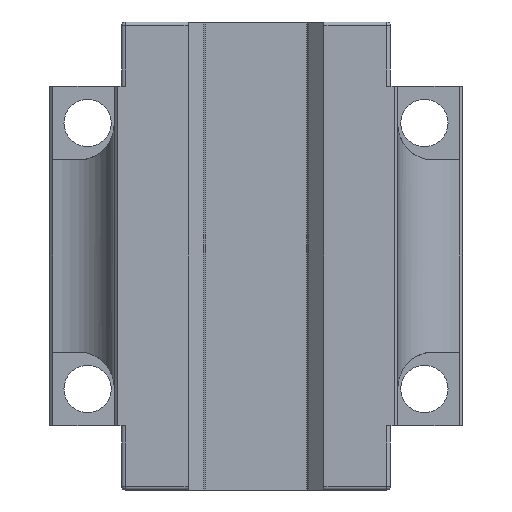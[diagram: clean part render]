
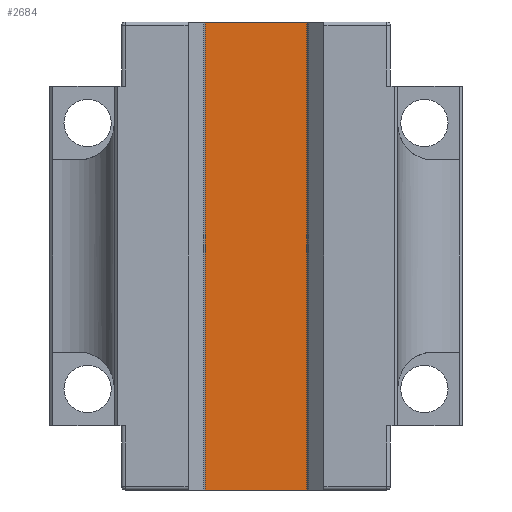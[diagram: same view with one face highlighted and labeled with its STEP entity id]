
A CAD part, front view. The second image highlights one B-rep face of the part: STEP entity #2684.
In plain terms, the highlighted planar face has unit normal (0, -1, 0).
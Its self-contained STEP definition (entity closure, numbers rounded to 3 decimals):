
#25 = DIRECTION ( 'NONE',  ( 0., 0., 1. ) ) ;
#175 = EDGE_LOOP ( 'NONE', ( #678, #1746, #2467, #1109 ) ) ;
#246 = DIRECTION ( 'NONE',  ( -1., 0., 0. ) ) ;
#339 = VERTEX_POINT ( 'NONE', #2007 ) ;
#455 = CARTESIAN_POINT ( 'NONE',  ( -10.25, 19.2, -39.6 ) ) ;
#495 = CARTESIAN_POINT ( 'NONE',  ( -11.5, 19.2, -39.6 ) ) ;
#660 = AXIS2_PLACEMENT_3D ( 'NONE', #2571, #2582, #25 ) ;
#678 = ORIENTED_EDGE ( 'NONE', *, *, #1985, .F. ) ;
#754 = EDGE_CURVE ( 'NONE', #339, #1902, #2297, .T. ) ;
#837 = CARTESIAN_POINT ( 'NONE',  ( 10.25, 19.2, 39.6 ) ) ;
#1055 = EDGE_CURVE ( 'NONE', #2203, #1924, #2991, .T. ) ;
#1109 = ORIENTED_EDGE ( 'NONE', *, *, #1055, .T. ) ;
#1224 = VECTOR ( 'NONE', #2081, 1000. ) ;
#1368 = EDGE_CURVE ( 'NONE', #1902, #2203, #2119, .T. ) ;
#1440 = VECTOR ( 'NONE', #246, 1000. ) ;
#1621 = CARTESIAN_POINT ( 'NONE',  ( 10.25, 19.2, 39.6 ) ) ;
#1697 = CARTESIAN_POINT ( 'NONE',  ( -10.25, 19.2, 39.6 ) ) ;
#1746 = ORIENTED_EDGE ( 'NONE', *, *, #754, .T. ) ;
#1902 = VERTEX_POINT ( 'NONE', #1621 ) ;
#1924 = VERTEX_POINT ( 'NONE', #2278 ) ;
#1927 = LINE ( 'NONE', #495, #2650 ) ;
#1985 = EDGE_CURVE ( 'NONE', #339, #1924, #1927, .T. ) ;
#2007 = CARTESIAN_POINT ( 'NONE',  ( 10.25, 19.2, -39.6 ) ) ;
#2081 = DIRECTION ( 'NONE',  ( 0., 0., -1. ) ) ;
#2119 = LINE ( 'NONE', #2528, #1440 ) ;
#2203 = VERTEX_POINT ( 'NONE', #1697 ) ;
#2278 = CARTESIAN_POINT ( 'NONE',  ( -10.25, 19.2, -39.6 ) ) ;
#2297 = LINE ( 'NONE', #837, #2773 ) ;
#2335 = DIRECTION ( 'NONE',  ( -1., 0., 0. ) ) ;
#2467 = ORIENTED_EDGE ( 'NONE', *, *, #1368, .T. ) ;
#2528 = CARTESIAN_POINT ( 'NONE',  ( -11.5, 19.2, 39.6 ) ) ;
#2571 = CARTESIAN_POINT ( 'NONE',  ( -11.5, 19.2, -39.6 ) ) ;
#2582 = DIRECTION ( 'NONE',  ( 0., 1., 0. ) ) ;
#2650 = VECTOR ( 'NONE', #2335, 1000. ) ;
#2684 = ADVANCED_FACE ( 'NONE', ( #2757 ), #2820, .F. ) ;
#2757 = FACE_OUTER_BOUND ( 'NONE', #175, .T. ) ;
#2773 = VECTOR ( 'NONE', #2918, 1000. ) ;
#2820 = PLANE ( 'NONE',  #660 ) ;
#2918 = DIRECTION ( 'NONE',  ( 0., 0., 1. ) ) ;
#2991 = LINE ( 'NONE', #455, #1224 ) ;
